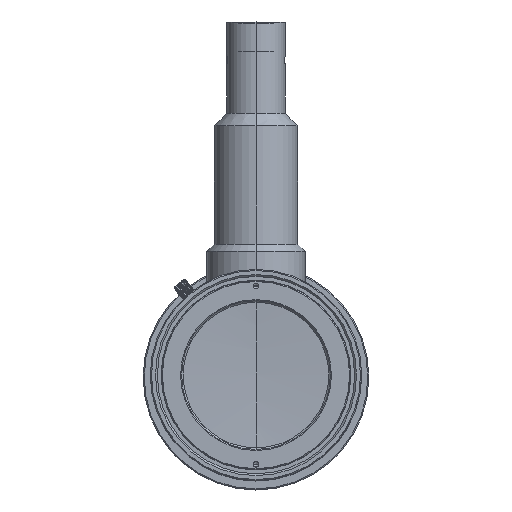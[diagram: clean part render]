
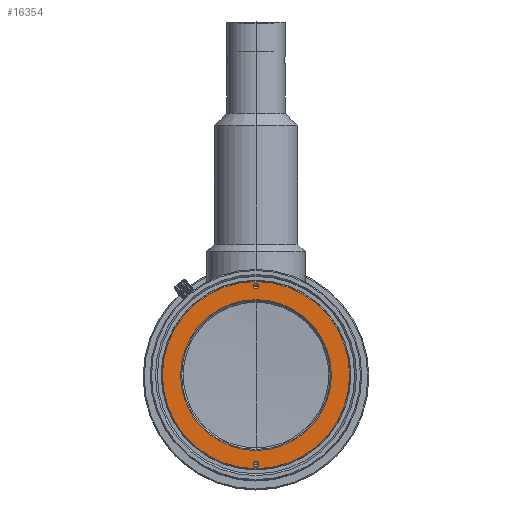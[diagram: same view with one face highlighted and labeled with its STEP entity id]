
A CAD part, top view. The second image highlights one B-rep face of the part: STEP entity #16354.
In plain terms, the highlighted planar face has unit normal (0, 0, 1).
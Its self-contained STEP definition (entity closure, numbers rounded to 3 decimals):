
#1757 = CARTESIAN_POINT ( 'NONE',  ( -0.75, -24.5, 101.95 ) ) ;
#2281 = DIRECTION ( 'NONE',  ( 1., 0., 0. ) ) ;
#3028 = AXIS2_PLACEMENT_3D ( 'NONE', #33873, #27471, #11165 ) ;
#4110 = AXIS2_PLACEMENT_3D ( 'NONE', #30985, #27168, #20509 ) ;
#4606 = CARTESIAN_POINT ( 'NONE',  ( -25.7, 0., 101.95 ) ) ;
#6074 = DIRECTION ( 'NONE',  ( 0., 0., 1. ) ) ;
#6177 = CARTESIAN_POINT ( 'NONE',  ( 20.7, 0., 101.95 ) ) ;
#7716 = CIRCLE ( 'NONE', #31638, 0.75 ) ;
#7751 = PLANE ( 'NONE',  #3028 ) ;
#8018 = EDGE_LOOP ( 'NONE', ( #11061, #35736 ) ) ;
#8391 = EDGE_CURVE ( 'NONE', #14521, #15903, #42424, .T. ) ;
#9147 = CARTESIAN_POINT ( 'NONE',  ( 0.75, -24.5, 101.95 ) ) ;
#10958 = ORIENTED_EDGE ( 'NONE', *, *, #14986, .F. ) ;
#11061 = ORIENTED_EDGE ( 'NONE', *, *, #41791, .T. ) ;
#11165 = DIRECTION ( 'NONE',  ( -1., 0., 0. ) ) ;
#11441 = ORIENTED_EDGE ( 'NONE', *, *, #8391, .F. ) ;
#11461 = DIRECTION ( 'NONE',  ( 1., 0., 0. ) ) ;
#12252 = DIRECTION ( 'NONE',  ( -1., 0., 0. ) ) ;
#12820 = EDGE_CURVE ( 'NONE', #15903, #14521, #7716, .T. ) ;
#14025 = CARTESIAN_POINT ( 'NONE',  ( 0., 24.5, 101.95 ) ) ;
#14149 = FACE_BOUND ( 'NONE', #17188, .T. ) ;
#14521 = VERTEX_POINT ( 'NONE', #37942 ) ;
#14652 = CIRCLE ( 'NONE', #20144, 0.75 ) ;
#14986 = EDGE_CURVE ( 'NONE', #27861, #39670, #14652, .T. ) ;
#15006 = VERTEX_POINT ( 'NONE', #6177 ) ;
#15903 = VERTEX_POINT ( 'NONE', #33015 ) ;
#16354 = ADVANCED_FACE ( 'NONE', ( #27671, #37099, #34088, #14149 ), #7751, .F. ) ;
#16965 = EDGE_LOOP ( 'NONE', ( #10958, #27613 ) ) ;
#17188 = EDGE_LOOP ( 'NONE', ( #34745, #24787 ) ) ;
#18667 = CARTESIAN_POINT ( 'NONE',  ( 0., 0., 101.95 ) ) ;
#18882 = DIRECTION ( 'NONE',  ( 0., 0., 1. ) ) ;
#19236 = DIRECTION ( 'NONE',  ( 1., 0., 0. ) ) ;
#20144 = AXIS2_PLACEMENT_3D ( 'NONE', #31865, #32289, #39182 ) ;
#20212 = EDGE_LOOP ( 'NONE', ( #42176, #11441 ) ) ;
#20318 = AXIS2_PLACEMENT_3D ( 'NONE', #25909, #22036, #19236 ) ;
#20509 = DIRECTION ( 'NONE',  ( -1., 0., 0. ) ) ;
#21784 = CARTESIAN_POINT ( 'NONE',  ( 0., -24.5, 101.95 ) ) ;
#22036 = DIRECTION ( 'NONE',  ( 0., 0., 1. ) ) ;
#22705 = CARTESIAN_POINT ( 'NONE',  ( 25.7, 0., 101.95 ) ) ;
#23327 = EDGE_CURVE ( 'NONE', #39670, #27861, #31480, .T. ) ;
#24048 = EDGE_CURVE ( 'NONE', #36461, #40225, #31244, .T. ) ;
#24615 = AXIS2_PLACEMENT_3D ( 'NONE', #30499, #6074, #40351 ) ;
#24787 = ORIENTED_EDGE ( 'NONE', *, *, #38925, .F. ) ;
#25909 = CARTESIAN_POINT ( 'NONE',  ( 0., 0., 101.95 ) ) ;
#27168 = DIRECTION ( 'NONE',  ( 0., 0., 1. ) ) ;
#27471 = DIRECTION ( 'NONE',  ( 0., 0., -1. ) ) ;
#27613 = ORIENTED_EDGE ( 'NONE', *, *, #23327, .F. ) ;
#27671 = FACE_BOUND ( 'NONE', #16965, .T. ) ;
#27861 = VERTEX_POINT ( 'NONE', #9147 ) ;
#30065 = DIRECTION ( 'NONE',  ( 0., 0., 1. ) ) ;
#30499 = CARTESIAN_POINT ( 'NONE',  ( 0., 24.5, 101.95 ) ) ;
#30571 = AXIS2_PLACEMENT_3D ( 'NONE', #18667, #18882, #12252 ) ;
#30701 = VERTEX_POINT ( 'NONE', #35228 ) ;
#30985 = CARTESIAN_POINT ( 'NONE',  ( 0., 0., 101.95 ) ) ;
#31244 = CIRCLE ( 'NONE', #30571, 25.7 ) ;
#31480 = CIRCLE ( 'NONE', #35600, 0.75 ) ;
#31638 = AXIS2_PLACEMENT_3D ( 'NONE', #14025, #40643, #11461 ) ;
#31865 = CARTESIAN_POINT ( 'NONE',  ( 0., -24.5, 101.95 ) ) ;
#32289 = DIRECTION ( 'NONE',  ( 0., 0., 1. ) ) ;
#32641 = CIRCLE ( 'NONE', #20318, 20.7 ) ;
#33015 = CARTESIAN_POINT ( 'NONE',  ( 0.75, 24.5, 101.95 ) ) ;
#33873 = CARTESIAN_POINT ( 'NONE',  ( 0., 26., 101.95 ) ) ;
#34049 = AXIS2_PLACEMENT_3D ( 'NONE', #40377, #30065, #39949 ) ;
#34088 = FACE_OUTER_BOUND ( 'NONE', #8018, .T. ) ;
#34745 = ORIENTED_EDGE ( 'NONE', *, *, #36190, .F. ) ;
#34860 = DIRECTION ( 'NONE',  ( 0., 0., 1. ) ) ;
#35228 = CARTESIAN_POINT ( 'NONE',  ( -20.7, 0., 101.95 ) ) ;
#35600 = AXIS2_PLACEMENT_3D ( 'NONE', #21784, #34860, #2281 ) ;
#35736 = ORIENTED_EDGE ( 'NONE', *, *, #24048, .T. ) ;
#36190 = EDGE_CURVE ( 'NONE', #15006, #30701, #32641, .T. ) ;
#36461 = VERTEX_POINT ( 'NONE', #22705 ) ;
#37099 = FACE_BOUND ( 'NONE', #20212, .T. ) ;
#37942 = CARTESIAN_POINT ( 'NONE',  ( -0.75, 24.5, 101.95 ) ) ;
#38925 = EDGE_CURVE ( 'NONE', #30701, #15006, #40943, .T. ) ;
#39182 = DIRECTION ( 'NONE',  ( 1., 0., 0. ) ) ;
#39670 = VERTEX_POINT ( 'NONE', #1757 ) ;
#39949 = DIRECTION ( 'NONE',  ( 1., 0., 0. ) ) ;
#40225 = VERTEX_POINT ( 'NONE', #4606 ) ;
#40351 = DIRECTION ( 'NONE',  ( 1., 0., 0. ) ) ;
#40377 = CARTESIAN_POINT ( 'NONE',  ( 0., 0., 101.95 ) ) ;
#40643 = DIRECTION ( 'NONE',  ( 0., 0., 1. ) ) ;
#40943 = CIRCLE ( 'NONE', #34049, 20.7 ) ;
#41100 = CIRCLE ( 'NONE', #4110, 25.7 ) ;
#41791 = EDGE_CURVE ( 'NONE', #40225, #36461, #41100, .T. ) ;
#42176 = ORIENTED_EDGE ( 'NONE', *, *, #12820, .F. ) ;
#42424 = CIRCLE ( 'NONE', #24615, 0.75 ) ;
